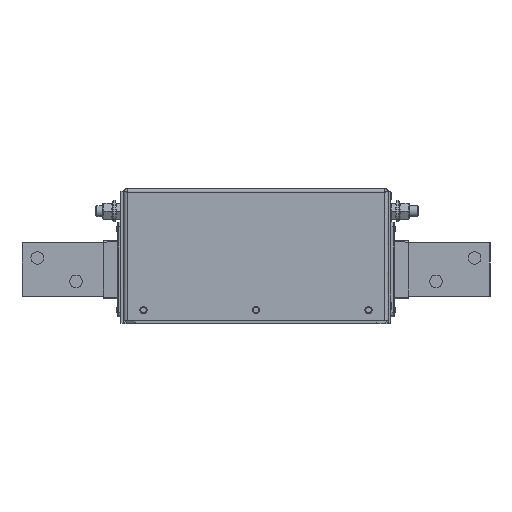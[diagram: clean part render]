
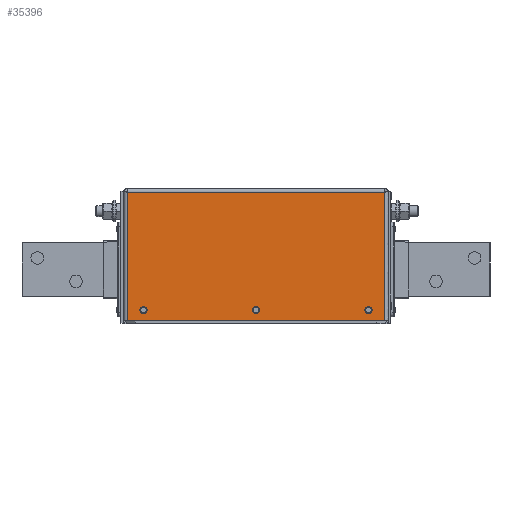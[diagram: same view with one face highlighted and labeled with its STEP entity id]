
A CAD part, front view. The second image highlights one B-rep face of the part: STEP entity #35396.
In plain terms, the highlighted free-form (B-spline) face has degree [1, 1] with [2, 2] control points.
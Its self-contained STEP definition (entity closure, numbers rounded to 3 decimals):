
#2111=CARTESIAN_POINT('',(121.0,-75.0,15.));
#2112=VERTEX_POINT('',#2111);
#2113=CARTESIAN_POINT('',(125.0,-75.0,15.));
#2114=DIRECTION('',(0.0,1.0,0.0));
#2115=DIRECTION('',(-1.0,0.0,0.0));
#2116=AXIS2_PLACEMENT_3D('',#2113,#2114,#2115);
#2117=CIRCLE('',#2116,4.0);
#2118=EDGE_CURVE('',#2112,#2112,#2117,.T.);
#2295=CARTESIAN_POINT('',(-4.0,-75.0,15.0));
#2296=VERTEX_POINT('',#2295);
#2297=CARTESIAN_POINT('',(0.,-75.0,15.0));
#2298=DIRECTION('',(0.0,1.0,0.0));
#2299=DIRECTION('',(-1.0,0.0,0.0));
#2300=AXIS2_PLACEMENT_3D('',#2297,#2298,#2299);
#2301=CIRCLE('',#2300,4.0);
#2302=EDGE_CURVE('',#2296,#2296,#2301,.T.);
#2479=CARTESIAN_POINT('',(-129.0,-75.0,15.0));
#2480=VERTEX_POINT('',#2479);
#2481=CARTESIAN_POINT('',(-125.0,-75.0,15.0));
#2482=DIRECTION('',(0.0,1.0,0.0));
#2483=DIRECTION('',(-1.0,0.0,0.0));
#2484=AXIS2_PLACEMENT_3D('',#2481,#2482,#2483);
#2485=CIRCLE('',#2484,4.0);
#2486=EDGE_CURVE('',#2480,#2480,#2485,.T.);
#34783=CARTESIAN_POINT('',(-143.2,-75.,146.2));
#34784=VERTEX_POINT('',#34783);
#35073=CARTESIAN_POINT('',(-143.2,-75.,3.8));
#35074=VERTEX_POINT('',#35073);
#35115=CARTESIAN_POINT('',(-143.2,-75.,146.2));
#35116=DIRECTION('',(0.0,0.0,-1.0));
#35117=VECTOR('',#35116,142.4);
#35118=LINE('',#35115,#35117);
#35119=EDGE_CURVE('',#34784,#35074,#35118,.T.);
#35357=CARTESIAN_POINT('',(143.2,-75.0,3.8));
#35358=CARTESIAN_POINT('',(143.2,-75.,146.2));
#35359=CARTESIAN_POINT('',(-143.2,-75.0,3.8));
#35360=CARTESIAN_POINT('',(-143.2,-75.0,146.2));
#35361=B_SPLINE_SURFACE_WITH_KNOTS('',1,1,((#35357,#35359),(#35358,#35360)),.UNSPECIFIED.,.F.,.F.,.U.,(2,2),(2,2),(0.0,142.4),(0.0,286.4),.UNSPECIFIED.);
#35362=CARTESIAN_POINT('',(143.2,-75.,146.2));
#35363=VERTEX_POINT('',#35362);
#35364=CARTESIAN_POINT('',(143.2,-75.,146.2));
#35365=DIRECTION('',(-1.0,0.0,0.0));
#35366=VECTOR('',#35365,286.4);
#35367=LINE('',#35364,#35366);
#35368=EDGE_CURVE('',#35363,#34784,#35367,.T.);
#35369=ORIENTED_EDGE('',*,*,#35368,.T.);
#35370=ORIENTED_EDGE('',*,*,#35119,.T.);
#35371=CARTESIAN_POINT('',(143.2,-75.,3.8));
#35372=VERTEX_POINT('',#35371);
#35373=CARTESIAN_POINT('',(143.2,-75.0,3.8));
#35374=DIRECTION('',(-1.0,0.0,0.0));
#35375=VECTOR('',#35374,286.4);
#35376=LINE('',#35373,#35375);
#35377=EDGE_CURVE('',#35372,#35074,#35376,.T.);
#35378=ORIENTED_EDGE('',*,*,#35377,.F.);
#35379=CARTESIAN_POINT('',(143.2,-75.,146.2));
#35380=DIRECTION('',(0.0,0.0,-1.0));
#35381=VECTOR('',#35380,142.4);
#35382=LINE('',#35379,#35381);
#35383=EDGE_CURVE('',#35363,#35372,#35382,.T.);
#35384=ORIENTED_EDGE('',*,*,#35383,.F.);
#35385=EDGE_LOOP('',(#35369,#35370,#35378,#35384));
#35386=FACE_OUTER_BOUND('',#35385,.T.);
#35387=ORIENTED_EDGE('',*,*,#2118,.T.);
#35388=EDGE_LOOP('',(#35387));
#35389=FACE_BOUND('',#35388,.T.);
#35390=ORIENTED_EDGE('',*,*,#2302,.T.);
#35391=EDGE_LOOP('',(#35390));
#35392=FACE_BOUND('',#35391,.T.);
#35393=ORIENTED_EDGE('',*,*,#2486,.T.);
#35394=EDGE_LOOP('',(#35393));
#35395=FACE_BOUND('',#35394,.T.);
#35396=ADVANCED_FACE('',(#35386,#35389,#35392,#35395),#35361,.T.);
